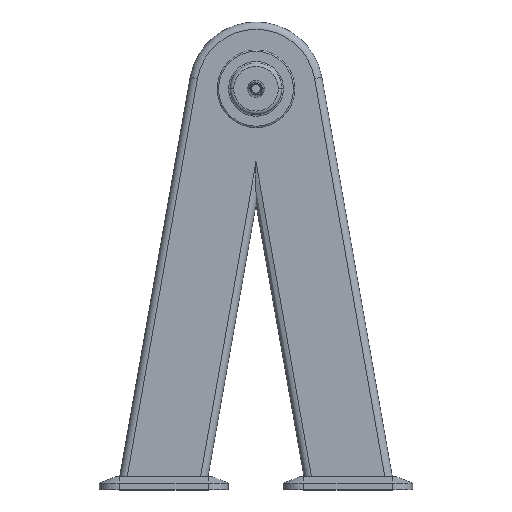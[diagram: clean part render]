
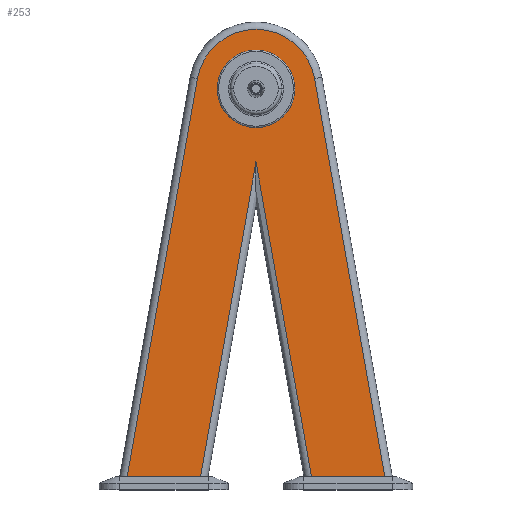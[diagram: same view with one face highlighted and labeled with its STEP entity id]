
A CAD part, top view. The second image highlights one B-rep face of the part: STEP entity #253.
In plain terms, the highlighted planar face has unit normal (0, 0, 1).
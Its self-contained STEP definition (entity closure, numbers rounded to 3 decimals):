
#11 = LINE ( 'NONE', #2819, #1903 ) ;
#14 = LINE ( 'NONE', #2964, #2681 ) ;
#95 = EDGE_LOOP ( 'NONE', ( #4011, #1258 ) ) ;
#209 = LINE ( 'NONE', #1079, #1241 ) ;
#222 = FACE_BOUND ( 'NONE', #95, .T. ) ;
#248 = AXIS2_PLACEMENT_3D ( 'NONE', #2114, #628, #918 ) ;
#253 = ADVANCED_FACE ( 'NONE', ( #222, #3772 ), #3289, .T. ) ;
#273 = VECTOR ( 'NONE', #318, 1000. ) ;
#290 = CARTESIAN_POINT ( 'NONE',  ( -192.643, 20., 63. ) ) ;
#318 = DIRECTION ( 'NONE',  ( -0.174, 0.985, 0. ) ) ;
#439 = CARTESIAN_POINT ( 'NONE',  ( 87.648, 615.455, 63. ) ) ;
#499 = EDGE_CURVE ( 'NONE', #1506, #1030, #1820, .T. ) ;
#557 = ORIENTED_EDGE ( 'NONE', *, *, #1525, .T. ) ;
#562 = DIRECTION ( 'NONE',  ( 0., 0., 1. ) ) ;
#574 = EDGE_LOOP ( 'NONE', ( #695, #2763, #557, #4368, #2087, #2766, #638 ) ) ;
#628 = DIRECTION ( 'NONE',  ( 0., 0., 1. ) ) ;
#638 = ORIENTED_EDGE ( 'NONE', *, *, #499, .T. ) ;
#692 = DIRECTION ( 'NONE',  ( 0.174, 0.985, 0. ) ) ;
#695 = ORIENTED_EDGE ( 'NONE', *, *, #834, .F. ) ;
#749 = EDGE_CURVE ( 'NONE', #2231, #1506, #806, .T. ) ;
#767 = CARTESIAN_POINT ( 'NONE',  ( 192.643, 20., 63. ) ) ;
#806 = CIRCLE ( 'NONE', #2108, 89. ) ;
#834 = EDGE_CURVE ( 'NONE', #2236, #1030, #209, .T. ) ;
#918 = DIRECTION ( 'NONE',  ( 1., 0., 0. ) ) ;
#1023 = EDGE_CURVE ( 'NONE', #4075, #2231, #1302, .T. ) ;
#1030 = VERTEX_POINT ( 'NONE', #290 ) ;
#1056 = DIRECTION ( 'NONE',  ( -1., 0., 0. ) ) ;
#1079 = CARTESIAN_POINT ( 'NONE',  ( 0., 20., 63. ) ) ;
#1113 = CARTESIAN_POINT ( 'NONE',  ( 58., 600., 63. ) ) ;
#1180 = CARTESIAN_POINT ( 'NONE',  ( -58., 600., 63. ) ) ;
#1241 = VECTOR ( 'NONE', #1056, 1000. ) ;
#1258 = ORIENTED_EDGE ( 'NONE', *, *, #2463, .F. ) ;
#1277 = CARTESIAN_POINT ( 'NONE',  ( -87.648, 615.455, 63. ) ) ;
#1287 = EDGE_CURVE ( 'NONE', #4075, #3676, #14, .T. ) ;
#1294 = EDGE_CURVE ( 'NONE', #1879, #3412, #3504, .T. ) ;
#1302 = LINE ( 'NONE', #439, #273 ) ;
#1309 = CARTESIAN_POINT ( 'NONE',  ( 82.977, 20., 63. ) ) ;
#1322 = DIRECTION ( 'NONE',  ( 1., 0., 0. ) ) ;
#1342 = DIRECTION ( 'NONE',  ( 0., 0., 1. ) ) ;
#1347 = CARTESIAN_POINT ( 'NONE',  ( 0., 600., 63. ) ) ;
#1506 = VERTEX_POINT ( 'NONE', #1277 ) ;
#1525 = EDGE_CURVE ( 'NONE', #3173, #3676, #2628, .T. ) ;
#1779 = EDGE_CURVE ( 'NONE', #2236, #3173, #11, .T. ) ;
#1820 = LINE ( 'NONE', #2301, #4059 ) ;
#1855 = VECTOR ( 'NONE', #2310, 1000. ) ;
#1879 = VERTEX_POINT ( 'NONE', #1180 ) ;
#1903 = VECTOR ( 'NONE', #692, 1000. ) ;
#2087 = ORIENTED_EDGE ( 'NONE', *, *, #1023, .T. ) ;
#2108 = AXIS2_PLACEMENT_3D ( 'NONE', #1347, #1342, #1322 ) ;
#2114 = CARTESIAN_POINT ( 'NONE',  ( 0., 600., 63. ) ) ;
#2231 = VERTEX_POINT ( 'NONE', #3733 ) ;
#2236 = VERTEX_POINT ( 'NONE', #4046 ) ;
#2285 = DIRECTION ( 'NONE',  ( -0.174, -0.985, 0. ) ) ;
#2301 = CARTESIAN_POINT ( 'NONE',  ( -197.564, -7.91, 63. ) ) ;
#2310 = DIRECTION ( 'NONE',  ( 0.174, -0.985, 0. ) ) ;
#2463 = EDGE_CURVE ( 'NONE', #3412, #1879, #3298, .T. ) ;
#2586 = DIRECTION ( 'NONE',  ( -1., 0., 0. ) ) ;
#2628 = LINE ( 'NONE', #4171, #1855 ) ;
#2681 = VECTOR ( 'NONE', #2586, 1000. ) ;
#2706 = CARTESIAN_POINT ( 'NONE',  ( 0., 600., 63. ) ) ;
#2763 = ORIENTED_EDGE ( 'NONE', *, *, #1779, .T. ) ;
#2766 = ORIENTED_EDGE ( 'NONE', *, *, #749, .T. ) ;
#2819 = CARTESIAN_POINT ( 'NONE',  ( -10.833, 429.147, 63. ) ) ;
#2964 = CARTESIAN_POINT ( 'NONE',  ( 0., 20., 63. ) ) ;
#3017 = DIRECTION ( 'NONE',  ( 1., 0., 0. ) ) ;
#3024 = CARTESIAN_POINT ( 'NONE',  ( 0., 490.583, 63. ) ) ;
#3173 = VERTEX_POINT ( 'NONE', #3024 ) ;
#3211 = DIRECTION ( 'NONE',  ( 1., 0., 0. ) ) ;
#3212 = DIRECTION ( 'NONE',  ( 0., 0., 1. ) ) ;
#3231 = CARTESIAN_POINT ( 'NONE',  ( 0., 600., 63. ) ) ;
#3289 = PLANE ( 'NONE',  #3416 ) ;
#3298 = CIRCLE ( 'NONE', #3597, 58. ) ;
#3412 = VERTEX_POINT ( 'NONE', #1113 ) ;
#3416 = AXIS2_PLACEMENT_3D ( 'NONE', #3231, #3212, #3211 ) ;
#3504 = CIRCLE ( 'NONE', #248, 58. ) ;
#3597 = AXIS2_PLACEMENT_3D ( 'NONE', #2706, #562, #3017 ) ;
#3676 = VERTEX_POINT ( 'NONE', #1309 ) ;
#3733 = CARTESIAN_POINT ( 'NONE',  ( 87.648, 615.455, 63. ) ) ;
#3772 = FACE_OUTER_BOUND ( 'NONE', #574, .T. ) ;
#4011 = ORIENTED_EDGE ( 'NONE', *, *, #1294, .F. ) ;
#4046 = CARTESIAN_POINT ( 'NONE',  ( -82.977, 20., 63. ) ) ;
#4059 = VECTOR ( 'NONE', #2285, 1000. ) ;
#4075 = VERTEX_POINT ( 'NONE', #767 ) ;
#4171 = CARTESIAN_POINT ( 'NONE',  ( 89.089, -14.664, 63. ) ) ;
#4368 = ORIENTED_EDGE ( 'NONE', *, *, #1287, .F. ) ;
